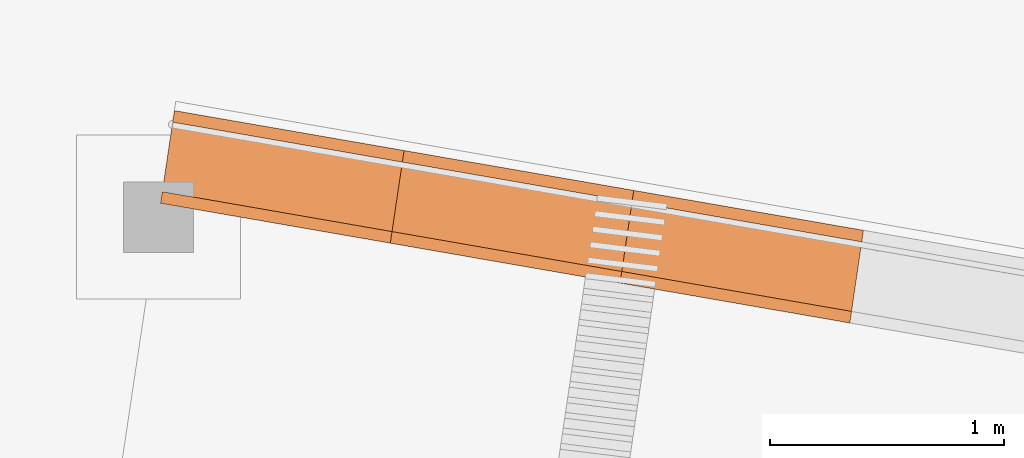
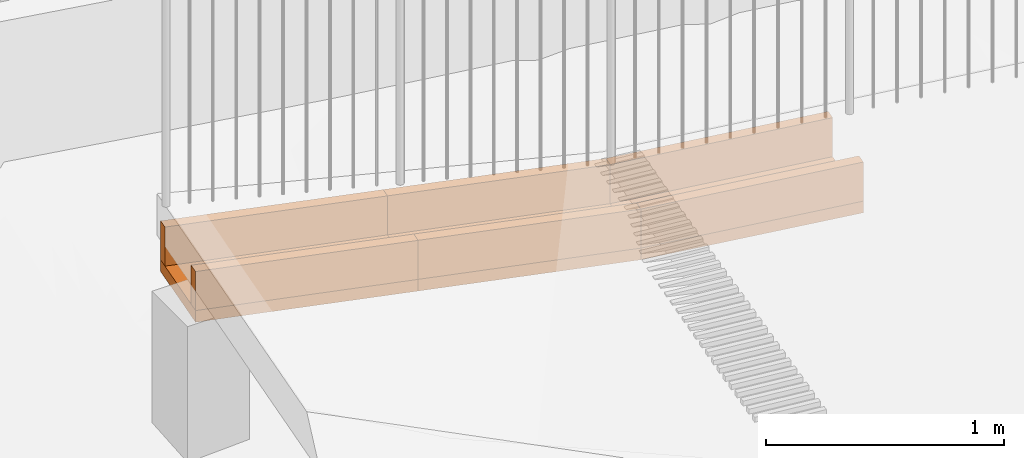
# Not in any storey, part 22 of 45: 9 proxies.
"""IFC4 model written with IfcOpenShell, lengths in metres."""

from ifc_helpers import new_model, si_unit, direction, frame, origin_with_axes, place, context, subcontext, project, spatial, polygons, material, element, save


model = new_model("IFC4")

# Units and contexts
model_context = context("Model", 3, precision=1e-05, world=origin_with_axes(), true_north=direction((0.0, 1.0)))
body_context = subcontext(model_context, "Body", "Model", "MODEL_VIEW")
ifc_project = project(units=[si_unit("VOLUMEUNIT", "CUBIC_METRE"), si_unit("LENGTHUNIT", "METRE"), si_unit("AREAUNIT", "SQUARE_METRE")], contexts=[model_context])

# Site
site_placement = place(None, origin_with_axes())
site = spatial("IfcSite", under=ifc_project, at=site_placement, Name="Lares · Rua das Mercês · artigo 4771")

# Proxies
ifc_material = material(Name="Caleiras · betão", Category="concrete")
proxy_1_placement = place(site_placement, frame((0.0, 0.0, 0.0), z_axis=(0.0, 0.0, 1.0), x_axis=(1.0, -1.03767253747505e-17, 0.0)))
element("IfcBuildingElementProxy", 1, at=proxy_1_placement, inside=site, material=ifc_material, Name="Acesso · canal lateral", ObjectType="Acesso · canal lateral", PredefinedType="USERDEFINED", context=body_context, shape_type="Tessellation", body=[
    polygons([(47.8433247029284, 11.2727225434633, 15.38), (47.9022388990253, 11.6683601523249, 15.38), (48.8832186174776, 11.4979541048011, 15.3), (48.8243041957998, 11.1023165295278, 15.3), (47.8433247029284, 11.2727225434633, 15.44), (47.9022388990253, 11.6683601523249, 15.44), (48.8832186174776, 11.4979541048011, 15.36), (48.8243041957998, 11.1023165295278, 15.36)], [[[4, 3, 2, 1]], [[5, 6, 7, 8]], [[1, 2, 6, 5]], [[2, 3, 7, 6]], [[3, 4, 8, 7]], [[4, 1, 5, 8]]]),
])
proxy_2_placement = place(site_placement, frame((0.0, 0.0, 0.0), z_axis=(0.0, 0.0, 1.0), x_axis=(1.0, -1.03767253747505e-17, 0.0)))
element("IfcBuildingElementProxy", 2, at=proxy_2_placement, inside=site, material=ifc_material, Name="Acesso · canal lateral", ObjectType="Acesso · canal lateral", PredefinedType="USERDEFINED", context=body_context, shape_type="Tessellation", body=[
    polygons([(47.8433247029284, 11.2727225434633, 15.44), (47.8506889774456, 11.3221772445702, 15.44), (48.831668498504, 11.1517712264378, 15.36), (48.8243041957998, 11.1023165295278, 15.36), (47.8433247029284, 11.2727225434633, 15.64), (47.8506889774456, 11.3221772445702, 15.64), (48.831668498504, 11.1517712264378, 15.56), (48.8243041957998, 11.1023165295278, 15.56)], [[[4, 3, 2, 1]], [[5, 6, 7, 8]], [[1, 2, 6, 5]], [[2, 3, 7, 6]], [[3, 4, 8, 7]], [[4, 1, 5, 8]]]),
])
proxy_3_placement = place(site_placement, frame((0.0, 0.0, 0.0), z_axis=(0.0, 0.0, 1.0), x_axis=(1.0, -1.03767253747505e-17, 0.0)))
element("IfcBuildingElementProxy", 3, at=proxy_3_placement, inside=site, material=ifc_material, Name="Acesso · canal lateral", ObjectType="Acesso · canal lateral", PredefinedType="USERDEFINED", context=body_context, shape_type="Tessellation", body=[
    polygons([(47.8948746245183, 11.6189054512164, 15.44), (47.9022388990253, 11.6683601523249, 15.44), (48.8832186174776, 11.4979541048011, 15.36), (48.8758543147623, 11.4484994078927, 15.36), (47.8948746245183, 11.6189054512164, 15.64), (47.9022388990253, 11.6683601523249, 15.64), (48.8832186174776, 11.4979541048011, 15.56), (48.8758543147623, 11.4484994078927, 15.56)], [[[4, 3, 2, 1]], [[5, 6, 7, 8]], [[1, 2, 6, 5]], [[2, 3, 7, 6]], [[3, 4, 8, 7]], [[4, 1, 5, 8]]]),
])
proxy_4_placement = place(site_placement, frame((0.0, 0.0, 0.0), z_axis=(0.0, 0.0, 1.0), x_axis=(1.0, -1.03767253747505e-17, 0.0)))
element("IfcBuildingElementProxy", 4, at=proxy_4_placement, inside=site, material=ifc_material, Name="Acesso · canal lateral", ObjectType="Acesso · canal lateral", PredefinedType="USERDEFINED", context=body_context, shape_type="Tessellation", body=[
    polygons([(48.8245174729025, 11.1022848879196, 15.3), (48.8830053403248, 11.4979857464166, 15.3), (49.8639910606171, 11.3275790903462, 15.22), (49.8055029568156, 10.931878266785, 15.22), (48.8245174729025, 11.1022848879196, 15.36), (48.8830053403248, 11.4979857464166, 15.36), (49.8639910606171, 11.3275790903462, 15.28), (49.8055029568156, 10.931878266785, 15.28)], [[[4, 3, 2, 1]], [[5, 6, 7, 8]], [[1, 2, 6, 5]], [[2, 3, 7, 6]], [[3, 4, 8, 7]], [[4, 1, 5, 8]]]),
])
proxy_5_placement = place(site_placement, frame((0.0, 0.0, 0.0), z_axis=(0.0, 0.0, 1.0), x_axis=(1.0, -1.03767253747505e-17, 0.0)))
element("IfcBuildingElementProxy", 5, at=proxy_5_placement, inside=site, material=ifc_material, Name="Acesso · canal lateral", ObjectType="Acesso · canal lateral", PredefinedType="USERDEFINED", context=body_context, shape_type="Tessellation", body=[
    polygons([(48.8245174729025, 11.1022848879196, 15.36), (48.8318284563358, 11.1517474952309, 15.36), (49.8128139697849, 10.981340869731, 15.28), (49.8055029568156, 10.931878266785, 15.28), (48.8245174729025, 11.1022848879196, 15.56), (48.8318284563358, 11.1517474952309, 15.56), (49.8128139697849, 10.981340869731, 15.48), (49.8055029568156, 10.931878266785, 15.48)], [[[4, 3, 2, 1]], [[5, 6, 7, 8]], [[1, 2, 6, 5]], [[2, 3, 7, 6]], [[3, 4, 8, 7]], [[4, 1, 5, 8]]]),
])
proxy_6_placement = place(site_placement, frame((0.0, 0.0, 0.0), z_axis=(0.0, 0.0, 1.0), x_axis=(1.0, -1.03767253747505e-17, 0.0)))
element("IfcBuildingElementProxy", 6, at=proxy_6_placement, inside=site, material=ifc_material, Name="Acesso · canal lateral", ObjectType="Acesso · canal lateral", PredefinedType="USERDEFINED", context=body_context, shape_type="Tessellation", body=[
    polygons([(48.8756943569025, 11.4485231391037, 15.36), (48.8830053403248, 11.4979857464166, 15.36), (49.8639910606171, 11.3275790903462, 15.28), (49.8566800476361, 11.2781164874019, 15.28), (48.8756943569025, 11.4485231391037, 15.56), (48.8830053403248, 11.4979857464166, 15.56), (49.8639910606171, 11.3275790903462, 15.48), (49.8566800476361, 11.2781164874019, 15.48)], [[[4, 3, 2, 1]], [[5, 6, 7, 8]], [[1, 2, 6, 5]], [[2, 3, 7, 6]], [[3, 4, 8, 7]], [[4, 1, 5, 8]]]),
])
proxy_7_placement = place(site_placement, frame((0.0, 0.0, 0.0), z_axis=(0.0, 0.0, 1.0), x_axis=(1.0, -1.03767253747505e-17, 0.0)))
element("IfcBuildingElementProxy", 7, at=proxy_7_placement, inside=site, material=ifc_material, Name="Acesso · canal lateral", ObjectType="Acesso · canal lateral", PredefinedType="USERDEFINED", context=body_context, shape_type="Tessellation", body=[
    polygons([(49.8057213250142, 10.9318461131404, 15.22), (49.8637726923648, 11.3276112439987, 15.22), (50.8447646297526, 11.1572039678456, 15.221), (50.7867130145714, 10.761438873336, 15.221), (49.8057213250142, 10.9318461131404, 15.28), (49.8637726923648, 11.3276112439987, 15.28), (50.8447646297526, 11.1572039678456, 15.281), (50.7867130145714, 10.761438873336, 15.281)], [[[4, 3, 2, 1]], [[5, 6, 7, 8]], [[1, 2, 6, 5]], [[2, 3, 7, 6]], [[3, 4, 8, 7]], [[4, 1, 5, 8]]]),
])
proxy_8_placement = place(site_placement, frame((0.0, 0.0, 0.0), z_axis=(0.0, 0.0, 1.0), x_axis=(1.0, -1.03767253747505e-17, 0.0)))
element("IfcBuildingElementProxy", 8, at=proxy_8_placement, inside=site, material=ifc_material, Name="Acesso · canal lateral", ObjectType="Acesso · canal lateral", PredefinedType="USERDEFINED", context=body_context, shape_type="Tessellation", body=[
    polygons([(49.8057213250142, 10.9318461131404, 15.28), (49.8129777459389, 10.9813167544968, 15.28), (50.7939694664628, 10.8109095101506, 15.281), (50.7867130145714, 10.761438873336, 15.281), (49.8057213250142, 10.9318461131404, 15.48), (49.8129777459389, 10.9813167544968, 15.48), (50.7939694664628, 10.8109095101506, 15.481), (50.7867130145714, 10.761438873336, 15.481)], [[[4, 3, 2, 1]], [[5, 6, 7, 8]], [[1, 2, 6, 5]], [[2, 3, 7, 6]], [[3, 4, 8, 7]], [[4, 1, 5, 8]]]),
])
proxy_9_placement = place(site_placement, frame((0.0, 0.0, 0.0), z_axis=(0.0, 0.0, 1.0), x_axis=(1.0, -1.03767253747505e-17, 0.0)))
element("IfcBuildingElementProxy", 9, at=proxy_9_placement, inside=site, material=ifc_material, Name="Acesso · canal lateral", ObjectType="Acesso · canal lateral", PredefinedType="USERDEFINED", context=body_context, shape_type="Tessellation", body=[
    polygons([(49.8565162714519, 11.2781406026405, 15.28), (49.8637726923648, 11.3276112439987, 15.28), (50.8447646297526, 11.1572039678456, 15.281), (50.8375081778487, 11.1077333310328, 15.281), (49.8565162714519, 11.2781406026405, 15.48), (49.8637726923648, 11.3276112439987, 15.48), (50.8447646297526, 11.1572039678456, 15.481), (50.8375081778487, 11.1077333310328, 15.481)], [[[4, 3, 2, 1]], [[5, 6, 7, 8]], [[1, 2, 6, 5]], [[2, 3, 7, 6]], [[3, 4, 8, 7]], [[4, 1, 5, 8]]]),
])

save(model, "model.ifc")
